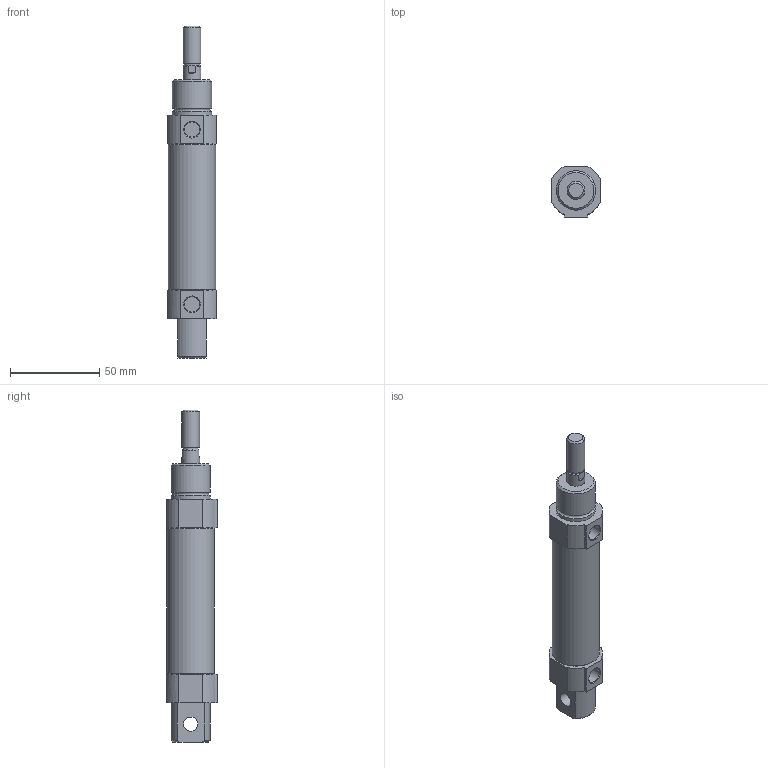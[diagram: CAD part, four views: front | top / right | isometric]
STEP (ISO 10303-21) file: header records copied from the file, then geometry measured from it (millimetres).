
FILE_DESCRIPTION((''),'2;1');
FILE_NAME('I:\3D電子目錄\氣缸\SDA\SDA25\SDA25\SDA25x50.stp','2007-08-06T10:32:38',('Administrator'),(''),'Autodesk Inventor 2008','Autodesk Inventor 2008','');
FILE_SCHEMA(('AUTOMOTIVE_DESIGN { 1 0 10303 214 1 1 1 1 }'));
Length unit declared in the file: millimetre
Products named in the file (1): SDA25X50
Bounding box: 27 x 28.5 x 186 mm (x, y, z)
Volume: 81928.8 mm3; surface area: 16203 mm2
Topology: 1 solids, 1 shells, 62 faces, 146 edges, 94 vertices
Faces by surface type: plane 30, cylinder 19, cone 10, bspline 2, torus 1
Full cylindrical faces by diameter (mm): 8 x1, 8.5 x2, 8.6 x1, 10 x2, 22 x2, 26.6 x1
Entity records: 1718 total; most frequent: CARTESIAN_POINT 307, DIRECTION 298, ORIENTED_EDGE 258, EDGE_CURVE 129, AXIS2_PLACEMENT_3D 116, VERTEX_POINT 93, EDGE_LOOP 88, VECTOR 66
